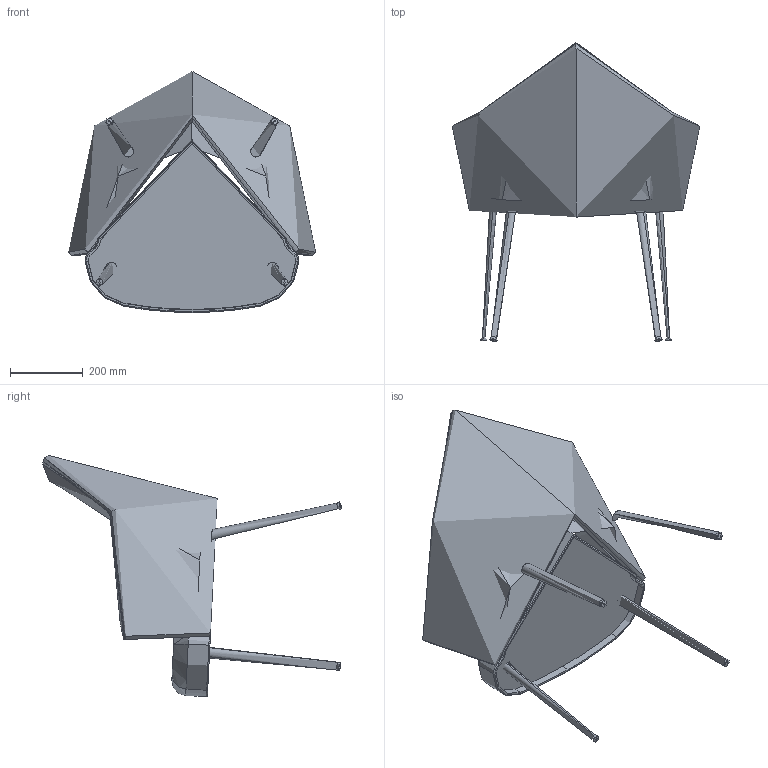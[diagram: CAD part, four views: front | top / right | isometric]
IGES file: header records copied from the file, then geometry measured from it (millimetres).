
Start section: SolidWorks IGES file using analytic representation for surfaces
Global section: file name: C:\Users\Comunicacao1\Desktop\Produtos para Site\ADELLE\AD016\IGS\AD016 - IGS.IGS; native system: SolidWorks 2019; preprocessor: SolidWorks 2019; author: Comunicacao1; date: 200311.142940; units: millimetre
Bounding box: 681.56 x 822.99 x 664.47 mm (x, y, z)
Volume: 46980404.6 mm3; surface area: 2614634 mm2
Topology: 7 solids, 7 shells, 153 faces, 362 edges, 197 vertices
Faces by surface type: bspline 87, revolution 54, plane 12
